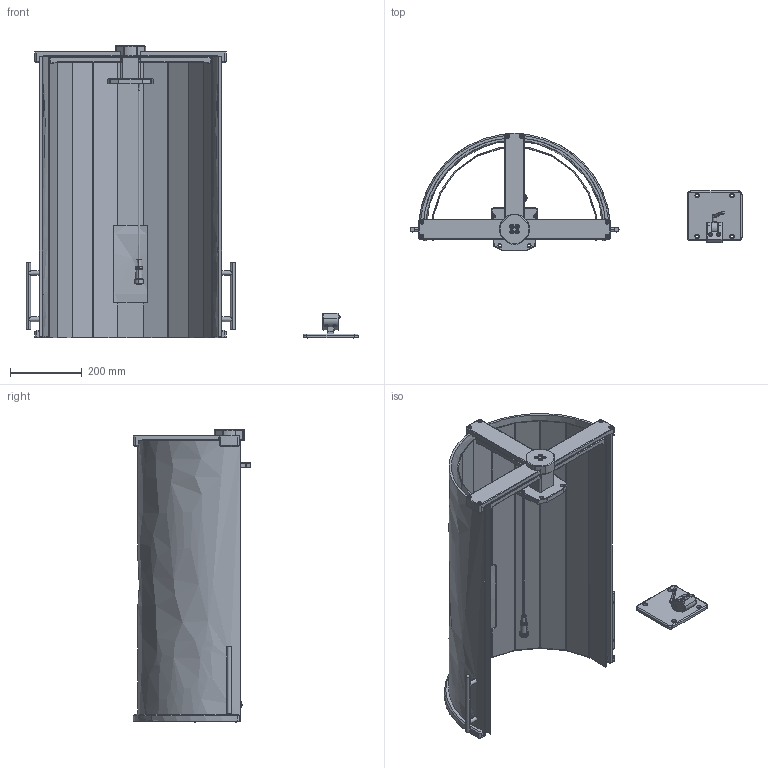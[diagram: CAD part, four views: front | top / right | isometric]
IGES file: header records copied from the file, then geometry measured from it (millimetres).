
Global section: file name: No Iges File Name specified; native system: Autodesk Inventor 2010; preprocessor: AutoDesk Inventor Iges Exporter R2010; author: mlampen; date: 20170424.150453; units: inch
Bounding box: 922.92 x 326.14 x 813.04 mm (x, y, z)
Volume: 7877452.4 mm3; surface area: 2972425 mm2
Topology: 8 solids, 8 shells, 2442 faces, 5435 edges, 3188 vertices
Faces by surface type: plane 821, revolution 680, cylinder 461, bspline 198, cone 182, torus 63, sphere 37
